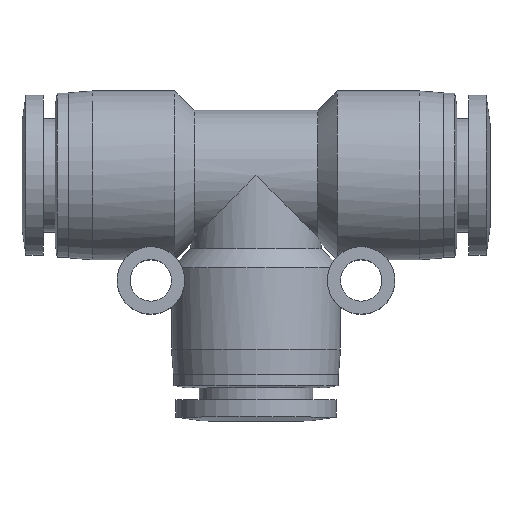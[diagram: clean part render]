
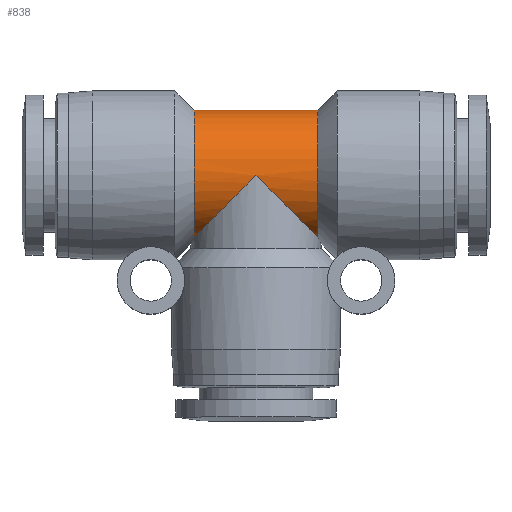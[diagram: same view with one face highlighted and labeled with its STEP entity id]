
A CAD part, top view. The second image highlights one B-rep face of the part: STEP entity #838.
In plain terms, the highlighted cylindrical face has radius 6.75 mm (diameter 13.5 mm), a partial arc.
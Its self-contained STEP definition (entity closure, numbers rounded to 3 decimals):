
#65 = AXIS2_PLACEMENT_3D ( 'NONE', #401, #682, #361 ) ;
#145 = CARTESIAN_POINT ( 'NONE',  ( -6.4, -6.4, 2.145 ) ) ;
#275 = CARTESIAN_POINT ( 'NONE',  ( 6.4, 6.75, 0. ) ) ;
#340 = VERTEX_POINT ( 'NONE', #275 ) ;
#361 = DIRECTION ( 'NONE',  ( 0., 1., 0. ) ) ;
#371 = EDGE_CURVE ( 'NONE', #730, #340, #1362, .T. ) ;
#401 = CARTESIAN_POINT ( 'NONE',  ( 6.4, 0., 0. ) ) ;
#467 = CARTESIAN_POINT ( 'NONE',  ( 0., 0., 0. ) ) ;
#576 = VERTEX_POINT ( 'NONE', #993 ) ;
#630 = CIRCLE ( 'NONE', #2998, 6.75 ) ;
#682 = DIRECTION ( 'NONE',  ( 1., 0., 0. ) ) ;
#687 = CARTESIAN_POINT ( 'NONE',  ( 3.005, -3.005, 6.75 ) ) ;
#730 = VERTEX_POINT ( 'NONE', #3462 ) ;
#809 = CARTESIAN_POINT ( 'NONE',  ( 0., 0., 6.75 ) ) ;
#838 = ADVANCED_FACE ( 'NONE', ( #979 ), #1292, .T. ) ;
#844 = ORIENTED_EDGE ( 'NONE', *, *, #371, .F. ) ;
#928 = ORIENTED_EDGE ( 'NONE', *, *, #972, .T. ) ;
#945 = CARTESIAN_POINT ( 'NONE',  ( 5.445, -5.445, 4.995 ) ) ;
#955 = CARTESIAN_POINT ( 'NONE',  ( 6.4, -6.4, 2.145 ) ) ;
#972 = EDGE_CURVE ( 'NONE', #730, #576, #630, .T. ) ;
#979 = FACE_OUTER_BOUND ( 'NONE', #3057, .T. ) ;
#986 = CARTESIAN_POINT ( 'NONE',  ( 0., 0., 6.75 ) ) ;
#993 = CARTESIAN_POINT ( 'NONE',  ( -6.4, -6.4, 2.145 ) ) ;
#1121 = CARTESIAN_POINT ( 'NONE',  ( 0., 6.75, 0. ) ) ;
#1154 = VERTEX_POINT ( 'NONE', #809 ) ;
#1278 =( BOUNDED_CURVE ( )  B_SPLINE_CURVE ( 3, ( #3255, #687, #945, #1856 ),
 .UNSPECIFIED., .F., .T. ) 
 B_SPLINE_CURVE_WITH_KNOTS ( ( 4, 4 ),
 ( 1.571, 2.818 ),
 .UNSPECIFIED. ) 
 CURVE ( )  GEOMETRIC_REPRESENTATION_ITEM ( )  RATIONAL_B_SPLINE_CURVE ( ( 1., 0.874, 0.874, 1. ) ) 
 REPRESENTATION_ITEM ( '' )  );
#1292 = CYLINDRICAL_SURFACE ( 'NONE', #2463, 6.75 ) ;
#1300 = ORIENTED_EDGE ( 'NONE', *, *, #3523, .T. ) ;
#1314 = EDGE_CURVE ( 'NONE', #340, #1729, #2235, .T. ) ;
#1344 = CARTESIAN_POINT ( 'NONE',  ( -6.4, 0., 0. ) ) ;
#1362 = LINE ( 'NONE', #1121, #2389 ) ;
#1395 =( BOUNDED_CURVE ( )  B_SPLINE_CURVE ( 3, ( #145, #2149, #2353, #986 ),
 .UNSPECIFIED., .F., .F. ) 
 B_SPLINE_CURVE_WITH_KNOTS ( ( 4, 4 ),
 ( 0.323, 1.571 ),
 .UNSPECIFIED. ) 
 CURVE ( )  GEOMETRIC_REPRESENTATION_ITEM ( )  RATIONAL_B_SPLINE_CURVE ( ( 1., 0.874, 0.874, 1. ) ) 
 REPRESENTATION_ITEM ( '' )  );
#1729 = VERTEX_POINT ( 'NONE', #955 ) ;
#1856 = CARTESIAN_POINT ( 'NONE',  ( 6.4, -6.4, 2.145 ) ) ;
#1857 = DIRECTION ( 'NONE',  ( 0., 1., 0. ) ) ;
#2143 = ORIENTED_EDGE ( 'NONE', *, *, #3385, .T. ) ;
#2149 = CARTESIAN_POINT ( 'NONE',  ( -5.445, -5.445, 4.995 ) ) ;
#2235 = CIRCLE ( 'NONE', #65, 6.75 ) ;
#2353 = CARTESIAN_POINT ( 'NONE',  ( -3.005, -3.005, 6.75 ) ) ;
#2364 = ORIENTED_EDGE ( 'NONE', *, *, #1314, .F. ) ;
#2389 = VECTOR ( 'NONE', #2764, 1000. ) ;
#2463 = AXIS2_PLACEMENT_3D ( 'NONE', #467, #2715, #2731 ) ;
#2715 = DIRECTION ( 'NONE',  ( 1., 0., 0. ) ) ;
#2731 = DIRECTION ( 'NONE',  ( 0., 1., 0. ) ) ;
#2764 = DIRECTION ( 'NONE',  ( 1., 0., 0. ) ) ;
#2930 = DIRECTION ( 'NONE',  ( 1., 0., 0. ) ) ;
#2998 = AXIS2_PLACEMENT_3D ( 'NONE', #1344, #2930, #1857 ) ;
#3057 = EDGE_LOOP ( 'NONE', ( #844, #928, #2143, #1300, #2364 ) ) ;
#3255 = CARTESIAN_POINT ( 'NONE',  ( 0., 0., 6.75 ) ) ;
#3385 = EDGE_CURVE ( 'NONE', #576, #1154, #1395, .T. ) ;
#3462 = CARTESIAN_POINT ( 'NONE',  ( -6.4, 6.75, 0. ) ) ;
#3523 = EDGE_CURVE ( 'NONE', #1154, #1729, #1278, .T. ) ;
